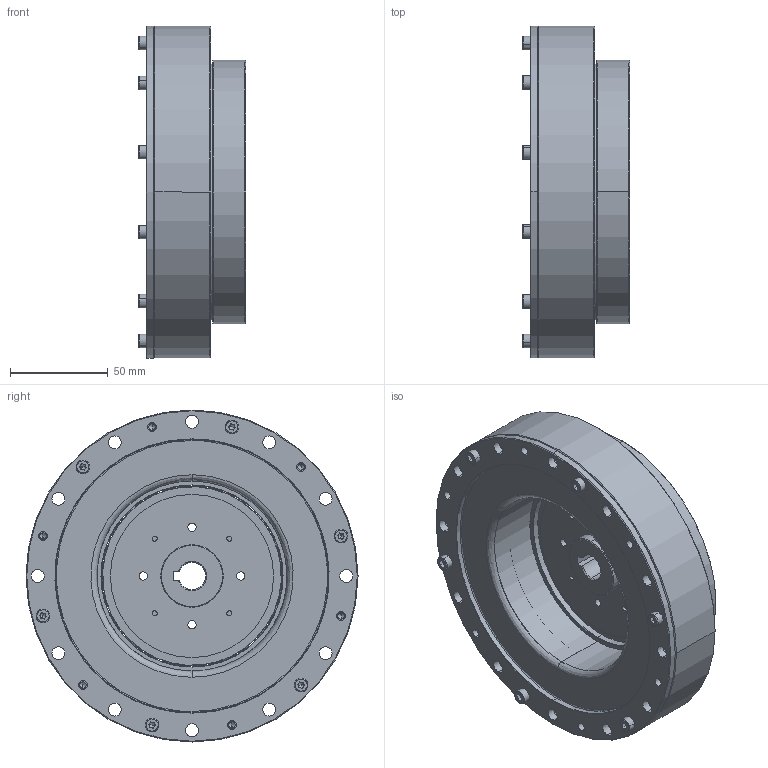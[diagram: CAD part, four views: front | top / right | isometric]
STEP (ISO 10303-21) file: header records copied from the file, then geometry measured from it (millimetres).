
FILE_DESCRIPTION (( 'STEP AP203' ), '1' );
FILE_NAME ('LHSG-40-XXX-C-I.step', '2025-01-07T07:26:54', ( '' ), ( '' ), 'SwSTEP 2.0', 'SolidWorks 2023', '' );
FILE_SCHEMA (( 'CONFIG_CONTROL_DESIGN' ));
Length unit declared in the file: metre
Products named in the file (1): LHSG-40-XXX-C-I
Bounding box: 55 x 170 x 170 mm (x, y, z)
Volume: 587982.3 mm3; surface area: 271528.5 mm2
Topology: 47 solids, 47 shells, 1125 faces, 2729 edges, 1596 vertices
Faces by surface type: cylinder 426, plane 333, cone 228, bspline 138
Entity records: 36461 total; most frequent: CARTESIAN_POINT 10559, DIRECTION 5743, ORIENTED_EDGE 5090, EDGE_CURVE 2545, AXIS2_PLACEMENT_3D 2342, VERTEX_POINT 1596, EDGE_LOOP 1379, CIRCLE 1354
